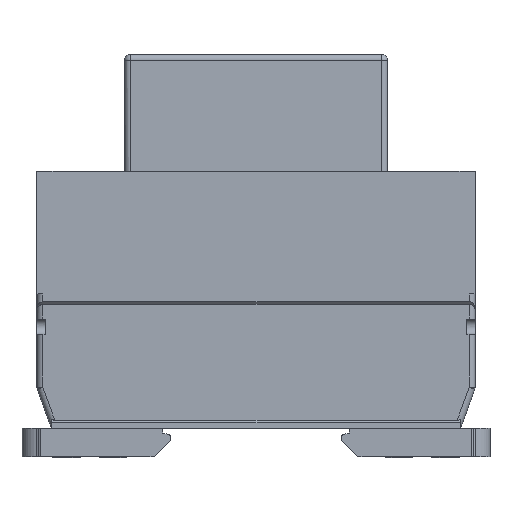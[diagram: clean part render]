
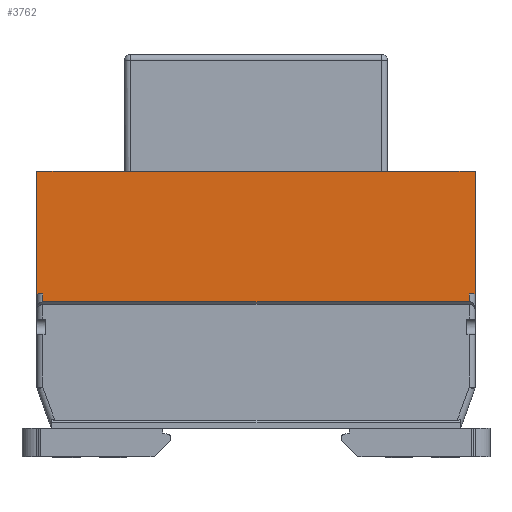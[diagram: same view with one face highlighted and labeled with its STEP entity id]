
A CAD part, left-side view. The second image highlights one B-rep face of the part: STEP entity #3762.
In plain terms, the highlighted planar face has unit normal (-1, 0, 0).
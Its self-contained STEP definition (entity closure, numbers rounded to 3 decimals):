
#579 = DIRECTION ( 'NONE',  ( 0., -1., 0. ) ) ;
#1410 = VERTEX_POINT ( 'NONE', #16610 ) ;
#1740 = PLANE ( 'NONE',  #22854 ) ;
#1962 = DIRECTION ( 'NONE',  ( 0., 0., -1. ) ) ;
#1964 = VERTEX_POINT ( 'NONE', #32290 ) ;
#2256 = DIRECTION ( 'NONE',  ( 0., 0., -1. ) ) ;
#2422 = CARTESIAN_POINT ( 'NONE',  ( 0., 77.554, 49. ) ) ;
#3762 = ADVANCED_FACE ( 'NONE', ( #12466 ), #1740, .T. ) ;
#4001 = DIRECTION ( 'NONE',  ( -1., 0., 0. ) ) ;
#4507 = CARTESIAN_POINT ( 'NONE',  ( 0., 65.554, 49. ) ) ;
#4849 = LINE ( 'NONE', #2422, #25828 ) ;
#4917 = VECTOR ( 'NONE', #579, 1000. ) ;
#6159 = VECTOR ( 'NONE', #16479, 1000. ) ;
#6403 = LINE ( 'NONE', #29944, #24560 ) ;
#7059 = VERTEX_POINT ( 'NONE', #28037 ) ;
#7144 = EDGE_LOOP ( 'NONE', ( #24520, #13188, #28611, #32186, #8147, #23859, #7551, #13908, #23140, #25789 ) ) ;
#7465 = VECTOR ( 'NONE', #26210, 1000. ) ;
#7551 = ORIENTED_EDGE ( 'NONE', *, *, #27208, .T. ) ;
#7552 = VECTOR ( 'NONE', #2256, 1000. ) ;
#7560 = CARTESIAN_POINT ( 'NONE',  ( 0., 2.554, 28. ) ) ;
#7817 = VECTOR ( 'NONE', #19830, 1000. ) ;
#8009 = LINE ( 'NONE', #13344, #7465 ) ;
#8147 = ORIENTED_EDGE ( 'NONE', *, *, #9364, .T. ) ;
#8329 = CARTESIAN_POINT ( 'NONE',  ( 0., 40.054, 26.65 ) ) ;
#8345 = EDGE_CURVE ( 'NONE', #20805, #1410, #8009, .T. ) ;
#8509 = CARTESIAN_POINT ( 'NONE',  ( 0., 77.554, 28. ) ) ;
#9308 = LINE ( 'NONE', #29763, #7817 ) ;
#9364 = EDGE_CURVE ( 'NONE', #20805, #27483, #17414, .T. ) ;
#10007 = VERTEX_POINT ( 'NONE', #26712 ) ;
#10882 = VERTEX_POINT ( 'NONE', #28909 ) ;
#11950 = DIRECTION ( 'NONE',  ( 0., -1., 0. ) ) ;
#12466 = FACE_OUTER_BOUND ( 'NONE', #7144, .T. ) ;
#12627 = DIRECTION ( 'NONE',  ( 0., 0., -1. ) ) ;
#12836 = CARTESIAN_POINT ( 'NONE',  ( 0., 2.554, 49. ) ) ;
#12911 = VECTOR ( 'NONE', #1962, 1000. ) ;
#13179 = EDGE_CURVE ( 'NONE', #1964, #10007, #9308, .T. ) ;
#13188 = ORIENTED_EDGE ( 'NONE', *, *, #16337, .T. ) ;
#13344 = CARTESIAN_POINT ( 'NONE',  ( 0., 65.554, 49. ) ) ;
#13515 = LINE ( 'NONE', #8329, #4917 ) ;
#13522 = LINE ( 'NONE', #8509, #6159 ) ;
#13908 = ORIENTED_EDGE ( 'NONE', *, *, #31039, .F. ) ;
#14178 = VECTOR ( 'NONE', #33232, 1000. ) ;
#16337 = EDGE_CURVE ( 'NONE', #10007, #27518, #6403, .T. ) ;
#16479 = DIRECTION ( 'NONE',  ( 0., 1., 0. ) ) ;
#16610 = CARTESIAN_POINT ( 'NONE',  ( 0., 2.554, 49. ) ) ;
#16932 = DIRECTION ( 'NONE',  ( 0., -1., 0. ) ) ;
#17202 = VECTOR ( 'NONE', #22505, 1000. ) ;
#17414 = LINE ( 'NONE', #30798, #14178 ) ;
#17990 = CARTESIAN_POINT ( 'NONE',  ( 0., 76.554, 28. ) ) ;
#19830 = DIRECTION ( 'NONE',  ( 0., 0., 1. ) ) ;
#20805 = VERTEX_POINT ( 'NONE', #32389 ) ;
#21381 = EDGE_CURVE ( 'NONE', #7059, #27483, #27897, .T. ) ;
#22452 = CARTESIAN_POINT ( 'NONE',  ( 0., 76.554, 26.65 ) ) ;
#22505 = DIRECTION ( 'NONE',  ( 0., -1., 0. ) ) ;
#22854 = AXIS2_PLACEMENT_3D ( 'NONE', #27733, #4001, #11950 ) ;
#23021 = CARTESIAN_POINT ( 'NONE',  ( 0., 76.554, 5. ) ) ;
#23140 = ORIENTED_EDGE ( 'NONE', *, *, #27256, .T. ) ;
#23859 = ORIENTED_EDGE ( 'NONE', *, *, #21381, .F. ) ;
#23881 = VERTEX_POINT ( 'NONE', #22452 ) ;
#24520 = ORIENTED_EDGE ( 'NONE', *, *, #13179, .T. ) ;
#24560 = VECTOR ( 'NONE', #16932, 1000. ) ;
#25061 = CARTESIAN_POINT ( 'NONE',  ( 0., 61.554, 49. ) ) ;
#25371 = VERTEX_POINT ( 'NONE', #17990 ) ;
#25670 = LINE ( 'NONE', #12836, #12911 ) ;
#25789 = ORIENTED_EDGE ( 'NONE', *, *, #29069, .T. ) ;
#25828 = VECTOR ( 'NONE', #12627, 1000. ) ;
#26210 = DIRECTION ( 'NONE',  ( 0., -1., 0. ) ) ;
#26712 = CARTESIAN_POINT ( 'NONE',  ( 0., 3.554, 28. ) ) ;
#27208 = EDGE_CURVE ( 'NONE', #7059, #10882, #4849, .T. ) ;
#27256 = EDGE_CURVE ( 'NONE', #25371, #23881, #34294, .T. ) ;
#27483 = VERTEX_POINT ( 'NONE', #25061 ) ;
#27518 = VERTEX_POINT ( 'NONE', #7560 ) ;
#27733 = CARTESIAN_POINT ( 'NONE',  ( 0., 40.054, 5. ) ) ;
#27897 = LINE ( 'NONE', #4507, #17202 ) ;
#28037 = CARTESIAN_POINT ( 'NONE',  ( 0., 77.554, 49. ) ) ;
#28611 = ORIENTED_EDGE ( 'NONE', *, *, #33102, .F. ) ;
#28909 = CARTESIAN_POINT ( 'NONE',  ( 0., 77.554, 28. ) ) ;
#29069 = EDGE_CURVE ( 'NONE', #23881, #1964, #13515, .T. ) ;
#29763 = CARTESIAN_POINT ( 'NONE',  ( 0., 3.554, 5. ) ) ;
#29944 = CARTESIAN_POINT ( 'NONE',  ( 0., 2.554, 28. ) ) ;
#30798 = CARTESIAN_POINT ( 'NONE',  ( 0., -23.541, 49. ) ) ;
#31039 = EDGE_CURVE ( 'NONE', #25371, #10882, #13522, .T. ) ;
#32186 = ORIENTED_EDGE ( 'NONE', *, *, #8345, .F. ) ;
#32290 = CARTESIAN_POINT ( 'NONE',  ( 0., 3.554, 26.65 ) ) ;
#32389 = CARTESIAN_POINT ( 'NONE',  ( 0., 18.554, 49. ) ) ;
#33102 = EDGE_CURVE ( 'NONE', #1410, #27518, #25670, .T. ) ;
#33232 = DIRECTION ( 'NONE',  ( 0., 1., 0. ) ) ;
#34294 = LINE ( 'NONE', #23021, #7552 ) ;
